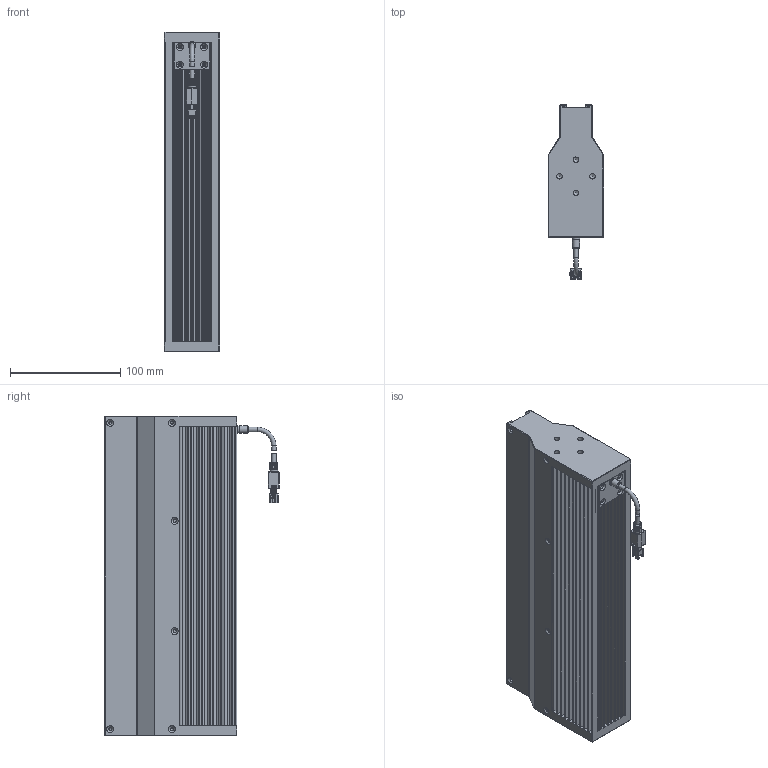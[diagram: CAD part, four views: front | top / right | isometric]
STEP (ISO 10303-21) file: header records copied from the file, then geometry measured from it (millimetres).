
FILE_DESCRIPTION (( 'STEP AP203' ), '1' );
FILE_NAME ('OPT-LSNL290-R-V1.0尨砩芞.STEP', '2025-02-17T11:02:49', ( '' ), ( '' ), 'SwSTEP 2.0', 'SolidWorks 2016', '' );
FILE_SCHEMA (( 'CONFIG_CONTROL_DESIGN' ));
Length unit declared in the file: millimetre
Products named in the file (1): OPT-LSNL290-R-V1.0尨砩芞
Bounding box: 50.02 x 158.44 x 290 mm (x, y, z)
Volume: 1059453.1 mm3; surface area: 347822.2 mm2
Topology: 8 solids, 14 shells, 982 faces, 2707 edges, 1739 vertices
Faces by surface type: plane 586, cylinder 323, cone 44, bspline 21, torus 8
Full cylindrical faces by diameter (mm): 1.1 x2, 1.4 x2, 2.5 x10, 3 x8, 3.4 x16, 3.5 x1, 4.1 x4, 5 x8, 5.8 x1, 6.5 x1, 7 x1, 7.5 x1
Entity records: 33448 total; most frequent: CARTESIAN_POINT 9538, ORIENTED_EDGE 5074, DIRECTION 4654, EDGE_CURVE 2537, VERTEX_POINT 1680, VECTOR 1638, LINE 1638, AXIS2_PLACEMENT_3D 1508
